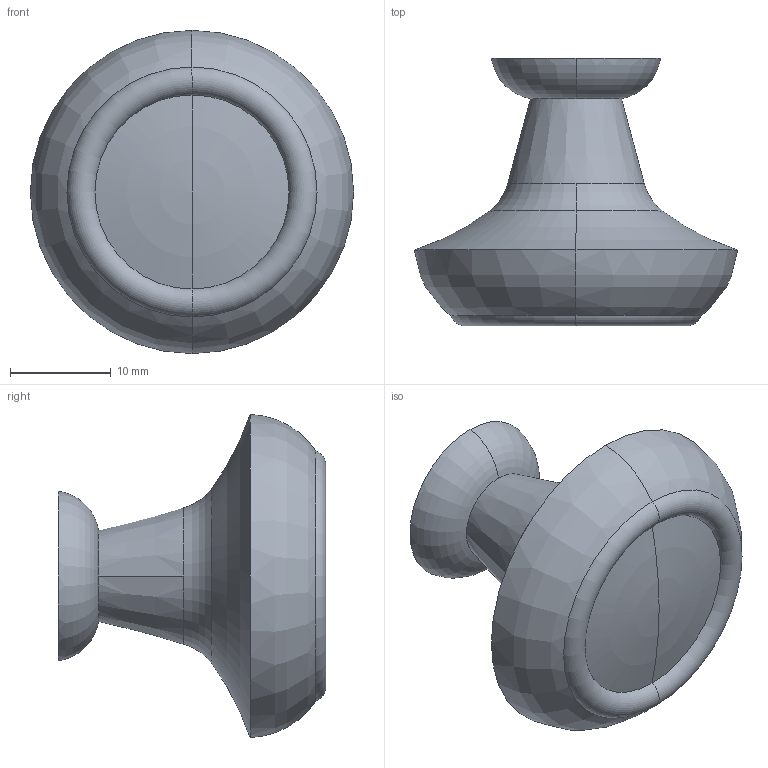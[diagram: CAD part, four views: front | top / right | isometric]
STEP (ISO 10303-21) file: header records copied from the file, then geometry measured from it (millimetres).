
FILE_DESCRIPTION( ( '' ), '1' );
FILE_NAME( 'C:/Documents and Settings/Nikhil/Desktop/Nik/Done/9113186.stp', '2013-10-24T04:14:43', ( '' ), ( '' ), ' ', ' ', ' ' );
FILE_SCHEMA( ( 'automotive_design' ) );
Length unit declared in the file: millimetre
Products named in the file (1): 1
Bounding box: 32 x 26.5 x 32 mm (x, y, z)
Volume: 8314.9 mm3; surface area: 2992 mm2
Topology: 1 solids, 1 shells, 23 faces, 58 edges, 37 vertices
Faces by surface type: torus 14, cylinder 4, plane 3, cone 2
Entity records: 1385 total; most frequent: DIRECTION 154, STYLED_ITEM 117, PRESENTATION_STYLE_ASSIGNMENT 117, CARTESIAN_POINT 117, COLOUR_RGB 117, ORIENTED_EDGE 112, AXIS2_PLACEMENT_3D 74, EDGE_CURVE 56
